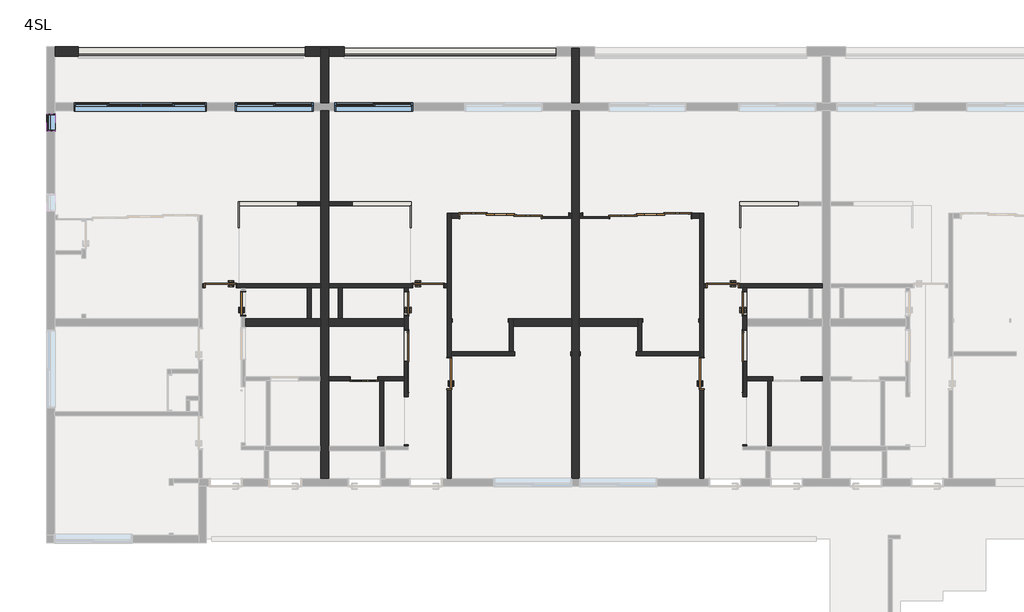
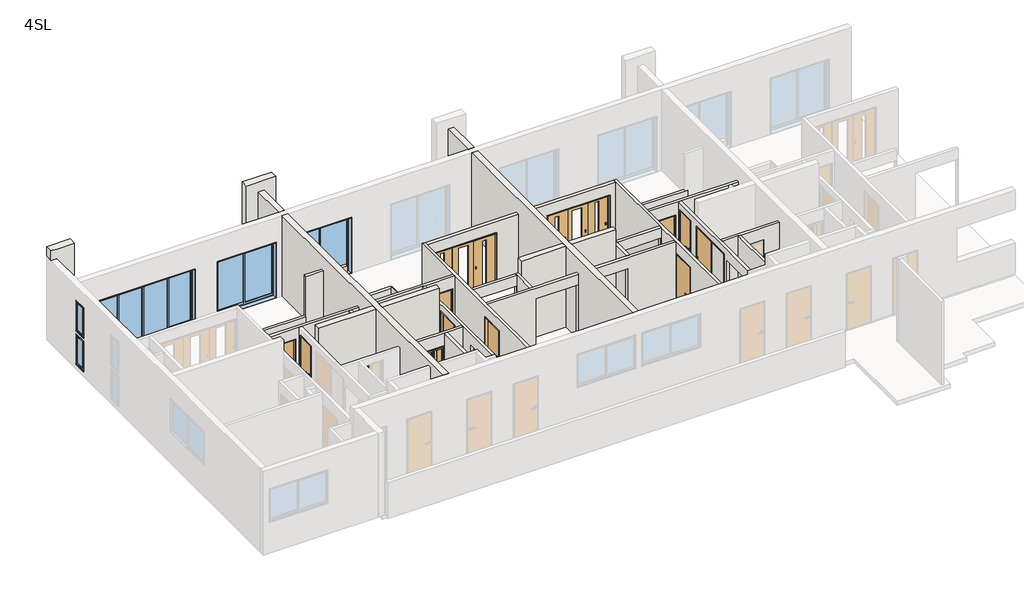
# One storey, part 2 of 3: 37 walls, 13 doors, 5 windows, 2 plates.
"""IFC4 building model written with IfcOpenShell, lengths in millimetres."""

from ifc_helpers import new_model, si_unit, frame, origin, place, context, project, spatial, polyline, outline, extrude, faceted_brep, transform, mapped, element, save
from components import door_a3db7c72, door_c7dcdbed, door_8f2de950, door_3b96e66a, door_aabc7979, door_3f60c47c, door_12b42705, door_31a51f76, door_d265da5f, system_panel_37aab131, system_panel_5692cc67, window_4c3e1407, window_a2a98c4b, window_ec430ee0, window_7edd47ae, w0450_h1100_93ba837a

model = new_model("IFC4")

# Units and contexts
model_context = context("Model", 3, world=origin())
ifc_project = project(units=[si_unit("LENGTHUNIT", "METRE", prefix="MILLI")], contexts=[model_context])

# Site, building, storey
site = spatial("IfcSite", under=ifc_project)
building = spatial("IfcBuilding", under=site)
storey = spatial("IfcBuildingStorey", under=building, Name="4SL", Elevation=10000.0)

# Doors
placement = place(None, origin())
door_shape = door_a3db7c72(model_context)
element("IfcDoor", 1, ObjectType="木製_片開き_フラッシュ : WD-2 w600h2000", at=placement, inside=storey, context=model_context, shape_type="MappedRepresentation", body=[
    mapped(door_shape, transform((-5645.6194095, 3696.254513, 10210.0), x_axis=(0.0, 1.0, 0.0), y_axis=(-1.0, 0.0, 0.0), z_axis=(0.0, 0.0, 1.0))),
])
element("IfcDoor", 2, ObjectType="木製_片開き_フラッシュ : WD-2 w600h2000", at=placement, inside=storey, context=model_context, shape_type="MappedRepresentation", body=[
    mapped(door_shape, transform((7254.3805905, 3696.254513, 10210.0), x_axis=(0.0, 1.0, 0.0), y_axis=(-1.0, 0.0, 0.0), z_axis=(0.0, 0.0, 1.0))),
])
door_2_shape = door_c7dcdbed(model_context)
element("IfcDoor", 3, ObjectType="木製_片開き_フラッシュ : WD-2 w600h2000", at=placement, inside=storey, context=model_context, shape_type="MappedRepresentation", body=[
    mapped(door_2_shape, transform((-1445.6194095, 3696.254513, 10210.0), x_axis=(0.0, 1.0, 0.0), y_axis=(-1.0, 0.0, 0.0), z_axis=(0.0, 0.0, 1.0))),
])
door_3_shape = door_8f2de950(model_context)
element("IfcDoor", 4, ObjectType="木製_片開き_フラッシュ : WD-1\u3000w800h2000", at=placement, inside=storey, context=model_context, shape_type="MappedRepresentation", body=[
    mapped(door_3_shape, transform((-6225.6194095, 4160.2598658, 10060.0), x_axis=(-1.0, 0.0, 0.0), y_axis=(0.0, -1.0, 0.0), z_axis=(0.0, 0.0, 1.0))),
])
element("IfcDoor", 5, ObjectType="木製_片開き_フラッシュ : WD-1\u3000w800h2000", at=placement, inside=storey, context=model_context, shape_type="MappedRepresentation", body=[
    mapped(door_3_shape, transform((-345.6194095, 1900.2598658, 10060.0), x_axis=(0.0, 1.0, 0.0), y_axis=(-1.0, 0.0, 0.0), z_axis=(0.0, 0.0, 1.0))),
])
element("IfcDoor", 6, ObjectType="木製_片開き_フラッシュ : WD-1\u3000w800h2000", at=placement, inside=storey, context=model_context, shape_type="MappedRepresentation", body=[
    mapped(door_3_shape, transform((6694.3805905, 4160.2598658, 10000.0), x_axis=(-1.0, 0.0, 0.0), y_axis=(0.0, -1.0, 0.0), z_axis=(0.0, 0.0, 1.0))),
])
door_4_shape = door_3b96e66a(model_context)
element("IfcDoor", 7, ObjectType="木製_片開き_フラッシュ : WD-1\u3000w800h2000", at=placement, inside=storey, context=model_context, shape_type="MappedRepresentation", body=[
    mapped(door_4_shape, transform((-885.6194095, 4160.2598658, 10000.0), x_axis=(1.0, 0.0, 0.0), y_axis=(0.0, 1.0, 0.0), z_axis=(0.0, 0.0, 1.0))),
])
element("IfcDoor", 8, ObjectType="木製_片開き_フラッシュ : WD-1\u3000w800h2000", at=placement, inside=storey, context=model_context, shape_type="MappedRepresentation", body=[
    mapped(door_4_shape, transform((6154.3805905, 1900.2598658, 10060.0), x_axis=(0.0, 1.0, 0.0), y_axis=(-1.0, 0.0, 0.0), z_axis=(0.0, 0.0, 1.0))),
])
door_5_shape = door_aabc7979(model_context)
element("IfcDoor", 9, ObjectType="木製_折戸2枚_フラッシュ(UB) : UB-1 w600h2000", at=placement, inside=storey, context=model_context, shape_type="MappedRepresentation", body=[
    mapped(door_5_shape, transform((-2535.6194095, 1760.2598658, 10000.0), x_axis=(-1.0, 0.0, 0.0), y_axis=(0.0, -1.0, 0.0), z_axis=(0.0, 0.0, 1.0))),
])
door_6_shape = door_3f60c47c(model_context)
element("IfcDoor", 10, ObjectType="木製_片引き_フラッシュ : WD-4 w800h2000", at=placement, inside=storey, context=model_context, shape_type="MappedRepresentation", body=[
    mapped(door_6_shape, transform((-1445.6194095, 2610.719009, 10210.0), x_axis=(0.0, -1.0, 0.0), y_axis=(1.0, 0.0, 0.0), z_axis=(0.0, 0.0, 1.0))),
])
door_7_shape = door_12b42705(model_context)
element("IfcDoor", 11, ObjectType="木製_片引き_フラッシュ : WD-4 w800h2000", at=placement, inside=storey, context=model_context, shape_type="MappedRepresentation", body=[
    mapped(door_7_shape, transform((7254.3805905, 2610.719009, 10210.0), x_axis=(0.0, -1.0, 0.0), y_axis=(1.0, 0.0, 0.0), z_axis=(0.0, 0.0, 1.0))),
])
door_8_shape = door_31a51f76(model_context)
element("IfcDoor", 12, ObjectType="木製_片引き3枚_フラッシュ2 : WD-9 w2100h2000", at=placement, inside=storey, context=model_context, shape_type="MappedRepresentation", body=[
    mapped(door_8_shape, transform((979.9160944, 5960.2598658, 10060.0), x_axis=(1.0, 0.0, 0.0), y_axis=(0.0, 1.0, 0.0), z_axis=(0.0, 0.0, 1.0))),
])
door_9_shape = door_d265da5f(model_context)
element("IfcDoor", 13, ObjectType="木製_片引き3枚_フラッシュ2 : WD-9 w2100h2000", at=placement, inside=storey, context=model_context, shape_type="MappedRepresentation", body=[
    mapped(door_9_shape, transform((4828.8450865, 5960.2598658, 10060.0), x_axis=(-1.0, 0.0, 0.0), y_axis=(0.0, -1.0, 0.0), z_axis=(0.0, 0.0, 1.0))),
])

# Plates
system_panel_shape = system_panel_37aab131(model_context)
element("IfcPlate", 14, ObjectType="システム パネル : System Panel", at=placement, inside=storey, context=model_context, shape_type="MappedRepresentation", body=[
    mapped(system_panel_shape, transform((-320.6194095, 10097.7598658, 10000.0), x_axis=(-1.0, 0.0, 0.0), y_axis=(0.0, -1.0, 0.0), z_axis=(0.0, 0.0, 1.0))),
])
system_panel_2_shape = system_panel_5692cc67(model_context)
element("IfcPlate", 15, ObjectType="システム パネル : System Panel", at=placement, inside=storey, context=model_context, shape_type="MappedRepresentation", body=[
    mapped(system_panel_2_shape, transform((-6970.6194095, 10097.7598658, 10000.0), x_axis=(1.0, 0.0, 0.0), y_axis=(0.0, 1.0, 0.0), z_axis=(0.0, 0.0, 1.0))),
])

# Walls
element("IfcWall", 16, ObjectType="(F)30", at=placement, inside=storey, context=model_context, shape_type="Brep", body=[
    faceted_brep([(-5775.1194095, 6315.254513, 10113.4303939), (-5775.1194095, 5645.254513, 10113.4303939), (-5775.1194095, 5645.254513, 11060.0), (-5775.1194095, 6315.254513, 11060.0), (-5745.1194095, 6315.254513, 10113.4303939), (-5745.1194095, 6315.254513, 11060.0), (-5745.1194095, 6215.254513, 11060.0), (-5745.1194095, 5645.254513, 11060.0), (-5745.1194095, 5645.254513, 10113.4303939)], [[[0, 1, 2, 3]], [[4, 5, 6, 7, 8]], [[1, 0, 4, 8]], [[2, 1, 8, 7]], [[3, 2, 7, 6, 5]], [[0, 3, 5, 4]]]),
])
element("IfcWall", 17, ObjectType="(F)30", at=placement, inside=storey, context=model_context, shape_type="Brep", body=[
    faceted_brep([(-1346.1194095, 6215.254513, 10060.0), (-1346.1194095, 5645.254513, 10060.0), (-1346.1194095, 5645.254513, 11120.0), (-1346.1194095, 6215.254513, 11120.0), (-1316.1194095, 6215.254513, 10060.0), (-1316.1194095, 6215.254513, 11060.0), (-1316.1194095, 6215.254513, 11120.0), (-1316.1194095, 5645.254513, 11120.0), (-1316.1194095, 5645.254513, 10060.0)], [[[0, 1, 2, 3]], [[4, 5, 6, 7, 8]], [[1, 0, 4, 8]], [[2, 1, 8, 7]], [[3, 2, 7, 6]], [[0, 3, 6, 5, 4]]]),
])
element("IfcWall", 18, ObjectType="(F)30", at=placement, inside=storey, context=model_context, shape_type="Brep", body=[
    faceted_brep([(7124.8805905, 6215.254513, 10060.0), (7124.8805905, 5645.254513, 10060.0), (7124.8805905, 5645.254513, 11120.0), (7124.8805905, 6215.254513, 11120.0), (7124.8805905, 6215.254513, 11060.0), (7154.8805905, 6215.254513, 10060.0), (7154.8805905, 6215.254513, 11120.0), (7154.8805905, 5645.254513, 11120.0), (7154.8805905, 5645.254513, 10060.0)], [[[0, 1, 2, 3, 4]], [[5, 6, 7, 8]], [[1, 0, 5, 8]], [[2, 1, 8, 7]], [[3, 2, 7, 6]], [[0, 4, 3, 6, 5]]]),
])
element("IfcWall", 19, ObjectType="(L)100", at=placement, inside=storey, context=model_context, shape_type="Brep", body=[
    faceted_brep([(-4245.6194095, 6315.254513, 10000.0), (-5745.1194095, 6315.254513, 10000.0), (-5745.1194095, 6315.254513, 10113.4303939), (-5745.1194095, 6315.254513, 11060.0), (-4245.6194095, 6315.254513, 11060.0), (-4245.6194095, 6315.254513, 10100.0), (-4245.6194095, 6215.254513, 10000.0), (-4245.6194095, 6215.254513, 10100.0), (-4245.6194095, 6215.254513, 11060.0), (-5745.1194095, 6215.254513, 11060.0), (-5745.1194095, 6215.254513, 10000.0)], [[[0, 1, 2, 3, 4, 5]], [[6, 7, 8, 9, 10]], [[1, 0, 6, 10]], [[4, 3, 9, 8]], [[0, 5, 4, 8, 7, 6]], [[3, 2, 1, 10, 9]]]),
])
element("IfcWall", 20, ObjectType="(L)100", at=placement, inside=storey, context=model_context, shape_type="SweptSolid", body=[
    extrude(outline(polyline([(-3995.6194095, 3310.2598658), (-3995.6194095, 4110.2598658), (-3895.6194095, 4110.2598658), (-3895.6194095, 3310.2598658), (-3995.6194095, 3310.2598658)])), frame((0.0, 0.0, 10000.0), z_axis=(0.0, 0.0, 1.0), x_axis=(1.0, 0.0, 0.0)), (0.0, 0.0, 1.0), 2460.0),
])
element("IfcWall", 21, ObjectType="(L)100", at=placement, inside=storey, context=model_context, shape_type="Brep", body=[
    faceted_brep([(-3645.6194095, 4210.2598658, 10060.0), (-5805.6194095, 4210.2598658, 10060.0), (-5805.6194095, 4210.2598658, 12080.0), (-6645.6194095, 4210.2598658, 12080.0), (-6645.6194095, 4210.2598658, 10060.0), (-6695.6194095, 4210.2598658, 10060.0), (-6695.6194095, 4210.2598658, 12460.0), (-3645.6194095, 4210.2598658, 12460.0), (-5805.6194095, 4110.2598658, 12080.0), (-5805.6194095, 4110.2598658, 10060.0), (-5695.6194095, 4110.2598658, 10060.0), (-5595.6194095, 4110.2598658, 10060.0), (-3645.6194095, 4110.2598658, 10060.0), (-3645.6194095, 4110.2598658, 12460.0), (-3895.6194095, 4110.2598658, 12460.0), (-3995.6194095, 4110.2598658, 12460.0), (-5595.6194095, 4110.2598658, 12460.0), (-5695.6194095, 4110.2598658, 12460.0), (-6695.6194095, 4110.2598658, 12460.0), (-6695.6194095, 4110.2598658, 10060.0), (-6645.6194095, 4110.2598658, 10060.0), (-6645.6194095, 4110.2598658, 12080.0)], [[[0, 1, 2, 3, 4, 5, 6, 7]], [[8, 9, 10, 11, 12, 13, 14, 15, 16, 17, 18, 19, 20, 21]], [[12, 11, 10, 9, 1, 0]], [[20, 19, 5, 4]], [[7, 6, 18, 17, 16, 15, 14, 13]], [[0, 7, 13, 12]], [[6, 5, 19, 18]], [[4, 3, 21, 20]], [[2, 1, 9, 8]], [[3, 2, 8, 21]]]),
])
element("IfcWall", 22, ObjectType="(L)100", at=placement, inside=storey, context=model_context, shape_type="Brep", body=[
    faceted_brep([(-395.6194095, 1480.2598658, 12080.0), (-395.6194095, 1480.2598658, 10060.0), (-395.6194095, -809.7401342, 10060.0), (-395.6194095, -809.7401342, 12460.0), (-395.6194095, 4110.2598658, 12460.0), (-395.6194095, 4210.2598658, 12460.0), (-395.6194095, 6022.7598658, 12460.0), (-395.6194095, 6022.7598658, 10060.0), (-395.6194095, 2320.2598658, 10060.0), (-395.6194095, 2320.2598658, 12080.0), (-295.6194095, -809.7401342, 10060.0), (-295.6194095, 1480.2598658, 10060.0), (-295.6194095, 1480.2598658, 12080.0), (-295.6194095, 2320.2598658, 12080.0), (-295.6194095, 2320.2598658, 10060.0), (-295.6194095, 2360.2598658, 10060.0), (-295.6194095, 2460.2598658, 10060.0), (-295.6194095, 5897.7598658, 10060.0), (-295.6194095, 6022.7598658, 10060.0), (-295.6194095, 6022.7598658, 12460.0), (-295.6194095, 5897.7598658, 12460.0), (-295.6194095, 3310.2598658, 12460.0), (-295.6194095, 3210.2598658, 12460.0), (-295.6194095, 2460.2598658, 12460.0), (-295.6194095, 2360.2598658, 12460.0), (-295.6194095, -809.7401342, 12460.0)], [[[0, 1, 2, 3, 4, 5, 6, 7, 8, 9]], [[10, 11, 12, 13, 14, 15, 16, 17, 18, 19, 20, 21, 22, 23, 24, 25]], [[2, 1, 11, 10]], [[8, 7, 18, 17, 16, 15, 14]], [[6, 5, 4, 3, 25, 24, 23, 22, 21, 20, 19]], [[7, 6, 19, 18]], [[3, 2, 10, 25]], [[14, 13, 9, 8]], [[12, 11, 1, 0]], [[13, 12, 0, 9]]]),
])
element("IfcWall", 23, ObjectType="(L)100", at=placement, inside=storey, context=model_context, shape_type="Brep", body=[
    faceted_brep([(2804.3805905, 2460.2598658, 10060.0), (2784.3805905, 2460.2598658, 10060.0), (2784.3805905, 2460.2598658, 12080.0), (1344.3805905, 2460.2598658, 12080.0), (1344.3805905, 2460.2598658, 10060.0), (-295.6194095, 2460.2598658, 10060.0), (-295.6194095, 2460.2598658, 12460.0), (1204.3805905, 2460.2598658, 12460.0), (1304.3805905, 2460.2598658, 12460.0), (2804.3805905, 2460.2598658, 12460.0), (2784.3805905, 2360.2598658, 12080.0), (2784.3805905, 2360.2598658, 10060.0), (2804.3805905, 2360.2598658, 10060.0), (2804.3805905, 2360.2598658, 12460.0), (-295.6194095, 2360.2598658, 12460.0), (-295.6194095, 2360.2598658, 10060.0), (1344.3805905, 2360.2598658, 10060.0), (1344.3805905, 2360.2598658, 12080.0)], [[[0, 1, 2, 3, 4, 5, 6, 7, 8, 9]], [[10, 11, 12, 13, 14, 15, 16, 17]], [[12, 11, 1, 0]], [[16, 15, 5, 4]], [[9, 8, 7, 6, 14, 13]], [[0, 9, 13, 12]], [[6, 5, 15, 14]], [[4, 3, 17, 16]], [[2, 1, 11, 10]], [[3, 2, 10, 17]]]),
])
element("IfcWall", 24, ObjectType="(L)100", at=placement, inside=storey, context=model_context, shape_type="Brep", body=[
    faceted_brep([(1204.3805905, 3310.2598658, 10000.0), (1204.3805905, 3210.2598658, 10000.0), (1204.3805905, 2460.2598658, 10000.0), (1204.3805905, 2460.2598658, 12460.0), (1204.3805905, 3210.2598658, 12460.0), (1204.3805905, 3310.2598658, 12460.0), (1304.3805905, 3310.2598658, 10000.0), (1304.3805905, 3310.2598658, 12460.0), (1304.3805905, 2460.2598658, 12460.0), (1304.3805905, 2460.2598658, 10000.0), (1304.3805905, 3110.2598658, 10000.0)], [[[0, 1, 2, 3, 4, 5]], [[6, 7, 8, 9, 10]], [[2, 1, 0, 6, 10, 9]], [[5, 4, 3, 8, 7]], [[0, 5, 7, 6]], [[3, 2, 9, 8]]]),
])
element("IfcWall", 25, ObjectType="(L)100", at=placement, inside=storey, context=model_context, shape_type="Brep", body=[
    faceted_brep([(-1395.6194095, 4110.2598658, 12460.0), (-1395.6194095, 30.2598658, 12460.0), (-1395.6194095, 30.2598658, 10060.0), (-1395.6194095, 60.2598658, 10060.0), (-1395.6194095, 60.2598658, 12080.0), (-1395.6194095, 1300.2598658, 12080.0), (-1395.6194095, 1300.2598658, 10060.0), (-1395.6194095, 4110.2598658, 10060.0), (-1395.6194095, 1396.254513, 12230.0), (-1395.6194095, 3036.254513, 12230.0), (-1395.6194095, 3036.254513, 10210.0), (-1395.6194095, 1396.254513, 10210.0), (-1395.6194095, 4016.254513, 12230.0), (-1395.6194095, 4016.254513, 10210.0), (-1395.6194095, 3376.254513, 10210.0), (-1395.6194095, 3376.254513, 12230.0), (-1495.6194095, 30.2598658, 12460.0), (-1495.6194095, 1710.2598658, 12460.0), (-1495.6194095, 1810.2598658, 12460.0), (-1495.6194095, 4110.2598658, 12460.0), (-1495.6194095, 4110.2598658, 10060.0), (-1495.6194095, 1300.2598658, 10060.0), (-1495.6194095, 1300.2598658, 12080.0), (-1495.6194095, 60.2598658, 12080.0), (-1495.6194095, 60.2598658, 10060.0), (-1495.6194095, 30.2598658, 10060.0), (-1495.6194095, 3036.254513, 12230.0), (-1495.6194095, 2196.254513, 12230.0), (-1495.6194095, 2196.254513, 10210.0), (-1495.6194095, 3036.254513, 10210.0), (-1495.6194095, 4016.254513, 10210.0), (-1495.6194095, 4016.254513, 12230.0), (-1495.6194095, 3376.254513, 12230.0), (-1495.6194095, 3376.254513, 10210.0), (-1425.6194095, 1396.254513, 12230.0), (-1425.6194095, 2196.254513, 12230.0), (-1425.6194095, 2196.254513, 10210.0), (-1425.6194095, 1396.254513, 10210.0)], [[[0, 1, 2, 3, 4, 5, 6, 7], [8, 9, 10, 11], [12, 13, 14, 15]], [[16, 17, 18, 19, 20, 21, 22, 23, 24, 25], [26, 27, 28, 29], [30, 31, 32, 33]], [[20, 7, 6, 21]], [[2, 25, 24, 3]], [[1, 0, 19, 18, 17, 16]], [[0, 7, 20, 19]], [[2, 1, 16, 25]], [[5, 22, 21, 6]], [[23, 4, 3, 24]], [[22, 5, 4, 23]], [[34, 35, 27, 26, 9, 8]], [[9, 26, 29, 10]], [[36, 37, 11, 10, 29, 28]], [[35, 36, 28, 27]], [[35, 34, 37, 36]], [[37, 34, 8, 11]], [[12, 31, 30, 13]], [[13, 30, 33, 14]], [[14, 33, 32, 15]], [[31, 12, 15, 32]]]),
])
element("IfcWall", 26, ObjectType="(L)100", at=placement, inside=storey, context=model_context, shape_type="SweptSolid", body=[
    extrude(outline(polyline([(-3445.6194095, 6315.254513), (-2845.6194095, 6315.254513), (-2845.6194095, 6215.254513), (-3445.6194095, 6215.254513), (-3445.6194095, 6315.254513)])), frame((0.0, 0.0, 10000.0), z_axis=(0.0, 0.0, 1.0), x_axis=(1.0, 0.0, 0.0)), (0.0, 0.0, 1.0), 2400.0),
])
element("IfcWall", 27, ObjectType="(L)100", at=placement, inside=storey, context=model_context, shape_type="Brep", body=[
    faceted_brep([(-2920.6194095, 6215.254513, 10060.0), (-1346.1194095, 6215.254513, 10060.0), (-1316.1194095, 6215.254513, 10060.0), (-1316.1194095, 6215.254513, 11060.0), (-2920.6194095, 6215.254513, 11060.0), (-2920.6194095, 6315.254513, 10060.0), (-2920.6194095, 6315.254513, 11060.0), (-1316.1194095, 6315.254513, 11060.0), (-1316.1194095, 6315.254513, 10060.0)], [[[0, 1, 2, 3, 4]], [[5, 6, 7, 8]], [[2, 1, 0, 5, 8]], [[4, 3, 7, 6]], [[0, 4, 6, 5]], [[3, 2, 8, 7]]]),
])
element("IfcWall", 28, ObjectType="(L)100", at=placement, inside=storey, context=model_context, shape_type="SweptSolid", body=[
    extrude(outline(polyline([(-3195.6194095, 3310.2598658), (-3195.6194095, 4110.2598658), (-3095.6194095, 4110.2598658), (-3095.6194095, 3310.2598658), (-3195.6194095, 3310.2598658)])), frame((0.0, 0.0, 10000.0), z_axis=(0.0, 0.0, 1.0), x_axis=(1.0, 0.0, 0.0)), (0.0, 0.0, 1.0), 2460.0),
])
element("IfcWall", 29, ObjectType="(L)100", at=placement, inside=storey, context=model_context, shape_type="Brep", body=[
    faceted_brep([(-2165.6194095, 1710.2598658, 12020.0), (-2165.6194095, 1710.2598658, 10000.0), (-2135.6194095, 1710.2598658, 10000.0), (-2035.6194095, 1710.2598658, 10000.0), (-1495.6194095, 1710.2598658, 10000.0), (-1495.6194095, 1710.2598658, 12460.0), (-2035.6194095, 1710.2598658, 12460.0), (-2135.6194095, 1710.2598658, 12460.0), (-3445.6194095, 1710.2598658, 12460.0), (-3445.6194095, 1710.2598658, 10000.0), (-2905.6194095, 1710.2598658, 10000.0), (-2905.6194095, 1710.2598658, 12020.0), (-1495.6194095, 1810.2598658, 10000.0), (-2165.6194095, 1810.2598658, 10000.0), (-2165.6194095, 1810.2598658, 12020.0), (-2905.6194095, 1810.2598658, 12020.0), (-2905.6194095, 1810.2598658, 10000.0), (-3445.6194095, 1810.2598658, 10000.0), (-3445.6194095, 1810.2598658, 12460.0), (-1495.6194095, 1810.2598658, 12460.0)], [[[0, 1, 2, 3, 4, 5, 6, 7, 8, 9, 10, 11]], [[12, 13, 14, 15, 16, 17, 18, 19]], [[4, 3, 2, 1, 13, 12]], [[10, 9, 17, 16]], [[8, 7, 6, 5, 19, 18]], [[9, 8, 18, 17]], [[5, 4, 12, 19]], [[16, 15, 11, 10]], [[14, 13, 1, 0]], [[15, 14, 0, 11]]]),
])
element("IfcWall", 30, ObjectType="(L)100", at=placement, inside=storey, context=model_context, shape_type="Brep", body=[
    faceted_brep([(-3445.6194095, 4110.2598658, 10000.0), (-3195.6194095, 4110.2598658, 10000.0), (-3095.6194095, 4110.2598658, 10000.0), (-1305.6194095, 4110.2598658, 10000.0), (-1305.6194095, 4110.2598658, 12020.0), (-465.6194095, 4110.2598658, 12020.0), (-465.6194095, 4110.2598658, 10000.0), (-395.6194095, 4110.2598658, 10000.0), (-395.6194095, 4110.2598658, 12460.0), (-1395.6194095, 4110.2598658, 12460.0), (-1495.6194095, 4110.2598658, 12460.0), (-3095.6194095, 4110.2598658, 12460.0), (-3195.6194095, 4110.2598658, 12460.0), (-3445.6194095, 4110.2598658, 12460.0), (-1305.6194095, 4210.2598658, 12020.0), (-1305.6194095, 4210.2598658, 10000.0), (-3445.6194095, 4210.2598658, 10000.0), (-3445.6194095, 4210.2598658, 12460.0), (-395.6194095, 4210.2598658, 12460.0), (-395.6194095, 4210.2598658, 10000.0), (-465.6194095, 4210.2598658, 10000.0), (-465.6194095, 4210.2598658, 12020.0)], [[[0, 1, 2, 3, 4, 5, 6, 7, 8, 9, 10, 11, 12, 13]], [[14, 15, 16, 17, 18, 19, 20, 21]], [[16, 15, 3, 2, 1, 0]], [[20, 19, 7, 6]], [[13, 12, 11, 10, 9, 8, 18, 17]], [[0, 13, 17, 16]], [[8, 7, 19, 18]], [[6, 5, 21, 20]], [[4, 3, 15, 14]], [[5, 4, 14, 21]]]),
])
element("IfcWall", 31, ObjectType="(L)100", at=placement, inside=storey, context=model_context, shape_type="Brep", body=[
    faceted_brep([(-4245.6194095, 6215.254513, 10100.0), (-3645.6194095, 6215.254513, 10100.0), (-3645.6194095, 6215.254513, 12500.0), (-4245.6194095, 6215.254513, 12500.0), (-4245.6194095, 6215.254513, 11060.0), (-4245.6194095, 6315.254513, 10100.0), (-4245.6194095, 6315.254513, 11060.0), (-4245.6194095, 6315.254513, 12500.0), (-3645.6194095, 6315.254513, 12500.0), (-3645.6194095, 6315.254513, 10100.0)], [[[0, 1, 2, 3, 4]], [[5, 6, 7, 8, 9]], [[1, 0, 5, 9]], [[3, 2, 8, 7]], [[0, 4, 3, 7, 6, 5]], [[2, 1, 9, 8]]]),
])
element("IfcWall", 32, ObjectType="(L)100", at=placement, inside=storey, context=model_context, shape_type="SweptSolid", body=[
    extrude(outline(polyline([(10000.0, -295.6194095), (10000.0, 1204.3805905), (12460.0, 1204.3805905), (12460.0, -295.6194095), (10000.0, -295.6194095)]), holes=[polyline([(10060.0, 1174.3805905), (10060.0, -265.6194095), (12080.0, -265.6194095), (12080.0, 1174.3805905), (10060.0, 1174.3805905)])]), frame((0.0, 3210.2598658, 0.0), z_axis=(0.0, 1.0, 0.0), x_axis=(0.0, 0.0, 1.0)), (0.0, 0.0, 1.0), 100.0),
])
element("IfcWall", 33, ObjectType="(L)100", at=placement, inside=storey, context=model_context, shape_type="SweptSolid", body=[
    extrude(outline(polyline([(-2135.6194095, 30.2598658), (-2135.6194095, 1710.2598658), (-2035.6194095, 1710.2598658), (-2035.6194095, 30.2598658), (-2135.6194095, 30.2598658)])), frame((0.0, 0.0, 10000.0), z_axis=(0.0, 0.0, 1.0), x_axis=(1.0, 0.0, 0.0)), (0.0, 0.0, 1.0), 2460.0),
])
element("IfcWall", 34, ObjectType="(L)100", at=placement, inside=storey, context=model_context, shape_type="Brep", body=[
    faceted_brep([(6104.3805905, 1480.2598658, 12080.0), (6104.3805905, 1480.2598658, 10060.0), (6104.3805905, -809.7401342, 10060.0), (6104.3805905, -809.7401342, 12460.0), (6104.3805905, 2360.2598658, 12460.0), (6104.3805905, 2460.2598658, 12460.0), (6104.3805905, 3210.2598658, 12460.0), (6104.3805905, 3310.2598658, 12460.0), (6104.3805905, 5897.7598658, 12460.0), (6104.3805905, 6022.7598658, 12460.0), (6104.3805905, 6022.7598658, 10060.0), (6104.3805905, 5897.7598658, 10060.0), (6104.3805905, 2460.2598658, 10060.0), (6104.3805905, 2360.2598658, 10060.0), (6104.3805905, 2320.2598658, 10060.0), (6104.3805905, 2320.2598658, 12080.0), (6204.3805905, -809.7401342, 10060.0), (6204.3805905, 1480.2598658, 10060.0), (6204.3805905, 1480.2598658, 12080.0), (6204.3805905, 2320.2598658, 12080.0), (6204.3805905, 2320.2598658, 10060.0), (6204.3805905, 6022.7598658, 10060.0), (6204.3805905, 6022.7598658, 12460.0), (6204.3805905, 4210.2598658, 12460.0), (6204.3805905, 4110.2598658, 12460.0), (6204.3805905, -809.7401342, 12460.0)], [[[0, 1, 2, 3, 4, 5, 6, 7, 8, 9, 10, 11, 12, 13, 14, 15]], [[16, 17, 18, 19, 20, 21, 22, 23, 24, 25]], [[2, 1, 17, 16]], [[14, 13, 12, 11, 10, 21, 20]], [[9, 8, 7, 6, 5, 4, 3, 25, 24, 23, 22]], [[10, 9, 22, 21]], [[3, 2, 16, 25]], [[20, 19, 15, 14]], [[18, 17, 1, 0]], [[19, 18, 0, 15]]]),
])
element("IfcWall", 35, ObjectType="(L)100", at=placement, inside=storey, context=model_context, shape_type="Brep", body=[
    faceted_brep([(3004.3805905, 2360.2598658, 10060.0), (3024.3805905, 2360.2598658, 10060.0), (3024.3805905, 2360.2598658, 12080.0), (4464.3805905, 2360.2598658, 12080.0), (4464.3805905, 2360.2598658, 10060.0), (6104.3805905, 2360.2598658, 10060.0), (6104.3805905, 2360.2598658, 12460.0), (3004.3805905, 2360.2598658, 12460.0), (3024.3805905, 2460.2598658, 12080.0), (3024.3805905, 2460.2598658, 10060.0), (3004.3805905, 2460.2598658, 10060.0), (3004.3805905, 2460.2598658, 12460.0), (4504.3805905, 2460.2598658, 12460.0), (4604.3805905, 2460.2598658, 12460.0), (6104.3805905, 2460.2598658, 12460.0), (6104.3805905, 2460.2598658, 10060.0), (4464.3805905, 2460.2598658, 10060.0), (4464.3805905, 2460.2598658, 12080.0)], [[[0, 1, 2, 3, 4, 5, 6, 7]], [[8, 9, 10, 11, 12, 13, 14, 15, 16, 17]], [[10, 9, 1, 0]], [[16, 15, 5, 4]], [[7, 6, 14, 13, 12, 11]], [[0, 7, 11, 10]], [[6, 5, 15, 14]], [[4, 3, 17, 16]], [[2, 1, 9, 8]], [[3, 2, 8, 17]]]),
])
element("IfcWall", 36, ObjectType="(L)100", at=placement, inside=storey, context=model_context, shape_type="Brep", body=[
    faceted_brep([(4504.3805905, 3310.2598658, 10000.0), (4504.3805905, 3110.2598658, 10000.0), (4504.3805905, 2460.2598658, 10000.0), (4504.3805905, 2460.2598658, 12460.0), (4504.3805905, 3310.2598658, 12460.0), (4604.3805905, 3310.2598658, 10000.0), (4604.3805905, 3310.2598658, 12460.0), (4604.3805905, 3210.2598658, 12460.0), (4604.3805905, 2460.2598658, 12460.0), (4604.3805905, 2460.2598658, 10000.0), (4604.3805905, 3210.2598658, 10000.0)], [[[0, 1, 2, 3, 4]], [[5, 6, 7, 8, 9, 10]], [[2, 1, 0, 5, 10, 9]], [[4, 3, 8, 7, 6]], [[0, 4, 6, 5]], [[3, 2, 9, 8]]]),
])
element("IfcWall", 37, ObjectType="(L)100", at=placement, inside=storey, context=model_context, shape_type="Brep", body=[
    faceted_brep([(7304.3805905, 4110.2598658, 12460.0), (7304.3805905, 1810.2598658, 12460.0), (7304.3805905, 1710.2598658, 12460.0), (7304.3805905, 30.2598658, 12460.0), (7304.3805905, 30.2598658, 10060.0), (7304.3805905, 60.2598658, 10060.0), (7304.3805905, 60.2598658, 12080.0), (7304.3805905, 1300.2598658, 12080.0), (7304.3805905, 1300.2598658, 10060.0), (7304.3805905, 4110.2598658, 10060.0), (7304.3805905, 2196.254513, 12230.0), (7304.3805905, 3036.254513, 12230.0), (7304.3805905, 3036.254513, 10210.0), (7304.3805905, 2196.254513, 10210.0), (7304.3805905, 4016.254513, 12230.0), (7304.3805905, 4016.254513, 10210.0), (7304.3805905, 3376.254513, 10210.0), (7304.3805905, 3376.254513, 12230.0), (7204.3805905, 30.2598658, 12460.0), (7204.3805905, 4110.2598658, 12460.0), (7204.3805905, 4110.2598658, 10060.0), (7204.3805905, 1300.2598658, 10060.0), (7204.3805905, 1300.2598658, 12080.0), (7204.3805905, 60.2598658, 12080.0), (7204.3805905, 60.2598658, 10060.0), (7204.3805905, 30.2598658, 10060.0), (7204.3805905, 3036.254513, 12230.0), (7204.3805905, 1396.254513, 12230.0), (7204.3805905, 1396.254513, 10210.0), (7204.3805905, 3036.254513, 10210.0), (7204.3805905, 4016.254513, 10210.0), (7204.3805905, 4016.254513, 12230.0), (7204.3805905, 3376.254513, 12230.0), (7204.3805905, 3376.254513, 10210.0), (7234.3805905, 2196.254513, 12230.0), (7234.3805905, 1396.254513, 12230.0), (7234.3805905, 1396.254513, 10210.0), (7234.3805905, 2196.254513, 10210.0)], [[[0, 1, 2, 3, 4, 5, 6, 7, 8, 9], [10, 11, 12, 13], [14, 15, 16, 17]], [[18, 19, 20, 21, 22, 23, 24, 25], [26, 27, 28, 29], [30, 31, 32, 33]], [[20, 9, 8, 21]], [[4, 25, 24, 5]], [[3, 2, 1, 0, 19, 18]], [[0, 9, 20, 19]], [[4, 3, 18, 25]], [[7, 22, 21, 8]], [[23, 6, 5, 24]], [[22, 7, 6, 23]], [[34, 35, 27, 26, 11, 10]], [[11, 26, 29, 12]], [[36, 37, 13, 12, 29, 28]], [[37, 34, 10, 13]], [[35, 34, 37, 36]], [[35, 36, 28, 27]], [[14, 31, 30, 15]], [[15, 30, 33, 16]], [[16, 33, 32, 17]], [[31, 14, 17, 32]]]),
])
element("IfcWall", 38, ObjectType="(L)100", at=placement, inside=storey, context=model_context, shape_type="Brep", body=[
    faceted_brep([(8729.3805905, 6315.254513, 10060.0), (7124.8805905, 6315.254513, 10060.0), (7124.8805905, 6315.254513, 11060.0), (8729.3805905, 6315.254513, 11060.0), (8729.3805905, 6215.254513, 10060.0), (8729.3805905, 6215.254513, 11060.0), (7124.8805905, 6215.254513, 11060.0), (7124.8805905, 6215.254513, 10060.0), (7154.8805905, 6215.254513, 10060.0)], [[[0, 1, 2, 3]], [[4, 5, 6, 7, 8]], [[1, 0, 4, 8, 7]], [[3, 2, 6, 5]], [[0, 3, 5, 4]], [[2, 1, 7, 6]]]),
])
element("IfcWall", 39, ObjectType="(L)100", at=placement, inside=storey, context=model_context, shape_type="Brep", body=[
    faceted_brep([(7974.3805905, 1810.2598658, 12020.0), (7974.3805905, 1810.2598658, 10000.0), (7304.3805905, 1810.2598658, 10000.0), (7304.3805905, 1810.2598658, 12460.0), (9254.3805905, 1810.2598658, 12460.0), (9254.3805905, 1810.2598658, 10000.0), (8714.3805905, 1810.2598658, 10000.0), (8714.3805905, 1810.2598658, 12020.0), (7304.3805905, 1710.2598658, 10000.0), (7844.3805905, 1710.2598658, 10000.0), (7944.3805905, 1710.2598658, 10000.0), (7974.3805905, 1710.2598658, 10000.0), (7974.3805905, 1710.2598658, 12020.0), (8714.3805905, 1710.2598658, 12020.0), (8714.3805905, 1710.2598658, 10000.0), (9254.3805905, 1710.2598658, 10000.0), (9254.3805905, 1710.2598658, 12460.0), (7944.3805905, 1710.2598658, 12460.0), (7844.3805905, 1710.2598658, 12460.0), (7304.3805905, 1710.2598658, 12460.0)], [[[0, 1, 2, 3, 4, 5, 6, 7]], [[8, 9, 10, 11, 12, 13, 14, 15, 16, 17, 18, 19]], [[2, 1, 11, 10, 9, 8]], [[6, 5, 15, 14]], [[4, 3, 19, 18, 17, 16]], [[5, 4, 16, 15]], [[3, 2, 8, 19]], [[14, 13, 7, 6]], [[12, 11, 1, 0]], [[13, 12, 0, 7]]]),
])
element("IfcWall", 40, ObjectType="(L)100", at=placement, inside=storey, context=model_context, shape_type="Brep", body=[
    faceted_brep([(9254.3805905, 4210.2598658, 10000.0), (7114.3805905, 4210.2598658, 10000.0), (7114.3805905, 4210.2598658, 12020.0), (6274.3805905, 4210.2598658, 12020.0), (6274.3805905, 4210.2598658, 10000.0), (6204.3805905, 4210.2598658, 10000.0), (6204.3805905, 4210.2598658, 12460.0), (9254.3805905, 4210.2598658, 12460.0), (7114.3805905, 4110.2598658, 12020.0), (7114.3805905, 4110.2598658, 10000.0), (8904.3805905, 4110.2598658, 10000.0), (9004.3805905, 4110.2598658, 10000.0), (9254.3805905, 4110.2598658, 10000.0), (9254.3805905, 4110.2598658, 12460.0), (9004.3805905, 4110.2598658, 12460.0), (8904.3805905, 4110.2598658, 12460.0), (7304.3805905, 4110.2598658, 12460.0), (7204.3805905, 4110.2598658, 12460.0), (6204.3805905, 4110.2598658, 12460.0), (6204.3805905, 4110.2598658, 10000.0), (6274.3805905, 4110.2598658, 10000.0), (6274.3805905, 4110.2598658, 12020.0)], [[[0, 1, 2, 3, 4, 5, 6, 7]], [[8, 9, 10, 11, 12, 13, 14, 15, 16, 17, 18, 19, 20, 21]], [[12, 11, 10, 9, 1, 0]], [[20, 19, 5, 4]], [[7, 6, 18, 17, 16, 15, 14, 13]], [[0, 7, 13, 12]], [[6, 5, 19, 18]], [[4, 3, 21, 20]], [[2, 1, 9, 8]], [[3, 2, 8, 21]]]),
])
element("IfcWall", 41, ObjectType="(L)100", at=placement, inside=storey, context=model_context, shape_type="SweptSolid", body=[
    extrude(outline(polyline([(10000.0, 4604.3805905), (10000.0, 6104.3805905), (12460.0, 6104.3805905), (12460.0, 4604.3805905), (10000.0, 4604.3805905)]), holes=[polyline([(10060.0, 6074.3805905), (10060.0, 4634.3805905), (12080.0, 4634.3805905), (12080.0, 6074.3805905), (10060.0, 6074.3805905)])]), frame((0.0, 3210.2598658, 0.0), z_axis=(0.0, 1.0, 0.0), x_axis=(0.0, 0.0, 1.0)), (0.0, 0.0, 1.0), 100.0),
])
element("IfcWall", 42, ObjectType="(L)100", at=placement, inside=storey, context=model_context, shape_type="SweptSolid", body=[
    extrude(outline(polyline([(7844.3805905, 30.2598658), (7844.3805905, 1710.2598658), (7944.3805905, 1710.2598658), (7944.3805905, 30.2598658), (7844.3805905, 30.2598658)])), frame((0.0, 0.0, 10000.0), z_axis=(0.0, 0.0, 1.0), x_axis=(1.0, 0.0, 0.0)), (0.0, 0.0, 1.0), 2460.0),
])
element("IfcWall", 43, ObjectType="(L1)125", at=placement, inside=storey, context=model_context, shape_type="Brep", body=[
    faceted_brep([(2804.3805905, 5897.7598658, 12460.0), (-295.6194095, 5897.7598658, 12460.0), (-295.6194095, 5897.7598658, 10060.0), (-95.6194095, 5897.7598658, 10060.0), (-95.6194095, 5897.7598658, 12080.0), (2044.3805905, 5897.7598658, 12080.0), (2044.3805905, 5897.7598658, 10060.0), (2804.3805905, 5897.7598658, 10060.0), (-295.6194095, 6022.7598658, 12460.0), (2804.3805905, 6022.7598658, 12460.0), (2804.3805905, 6022.7598658, 10060.0), (2744.3805905, 6022.7598658, 10060.0), (2744.3805905, 6022.7598658, 12080.0), (-95.6194095, 6022.7598658, 12080.0), (-95.6194095, 6022.7598658, 10060.0), (-295.6194095, 6022.7598658, 10060.0), (2044.3805905, 5932.7598658, 10060.0), (2744.3805905, 5932.7598658, 10060.0), (2744.3805905, 5932.7598658, 12080.0), (2044.3805905, 5932.7598658, 12080.0)], [[[0, 1, 2, 3, 4, 5, 6, 7]], [[8, 9, 10, 11, 12, 13, 14, 15]], [[10, 7, 6, 16, 17, 11]], [[2, 15, 14, 3]], [[1, 0, 9, 8]], [[0, 7, 10, 9]], [[2, 1, 8, 15]], [[18, 19, 5, 4, 13, 12]], [[13, 4, 3, 14]], [[19, 16, 6, 5]], [[19, 18, 17, 16]], [[17, 18, 12, 11]]]),
])
element("IfcWall", 44, ObjectType="(L1)125", at=placement, inside=storey, context=model_context, shape_type="Brep", body=[
    faceted_brep([(3004.3805905, 6022.7598658, 12460.0), (6104.3805905, 6022.7598658, 12460.0), (6104.3805905, 6022.7598658, 10060.0), (5904.3805905, 6022.7598658, 10060.0), (5904.3805905, 6022.7598658, 12080.0), (3064.3805905, 6022.7598658, 12080.0), (3064.3805905, 6022.7598658, 10060.0), (3004.3805905, 6022.7598658, 10060.0), (6104.3805905, 5897.7598658, 12460.0), (3004.3805905, 5897.7598658, 12460.0), (3004.3805905, 5897.7598658, 10060.0), (3764.3805905, 5897.7598658, 10060.0), (3764.3805905, 5897.7598658, 12080.0), (5904.3805905, 5897.7598658, 12080.0), (5904.3805905, 5897.7598658, 10060.0), (6104.3805905, 5897.7598658, 10060.0), (3064.3805905, 5932.7598658, 10060.0), (3764.3805905, 5932.7598658, 10060.0), (3764.3805905, 5932.7598658, 12080.0), (3064.3805905, 5932.7598658, 12080.0)], [[[0, 1, 2, 3, 4, 5, 6, 7]], [[8, 9, 10, 11, 12, 13, 14, 15]], [[10, 7, 6, 16, 17, 11]], [[2, 15, 14, 3]], [[1, 0, 9, 8]], [[0, 7, 10, 9]], [[2, 1, 8, 15]], [[18, 19, 5, 4, 13, 12]], [[13, 4, 3, 14]], [[17, 18, 12, 11]], [[19, 18, 17, 16]], [[19, 16, 6, 5]]]),
])
element("IfcWall", 45, ObjectType="(R)200", at=placement, inside=storey, context=model_context, shape_type="Brep", body=[
    faceted_brep([(-3445.6194095, 10259.9866207, 10000.0), (-3445.6194095, 10259.9866207, 13000.0), (-3445.6194095, 8860.2598658, 13000.0), (-3445.6194095, 8860.2598658, 10000.0), (-3645.6194095, 10259.9866207, 13000.0), (-3645.6194095, 10259.9866207, 10000.0), (-3645.6194095, 8860.2598658, 10000.0), (-3645.6194095, 8860.2598658, 13000.0)], [[[0, 1, 2, 3]], [[4, 5, 6, 7]], [[5, 0, 3, 6]], [[1, 0, 5, 4]], [[1, 4, 7, 2]], [[3, 2, 7, 6]]]),
    faceted_brep([(-3445.6194095, -809.7401342, 13000.0), (-3445.6194095, -809.7401342, 10000.0), (-3445.6194095, -89.7401342, 10000.0), (-3445.6194095, 30.2598658, 10000.0), (-3445.6194095, 1710.2598658, 10000.0), (-3445.6194095, 1810.2598658, 10000.0), (-3445.6194095, 3110.2598658, 10000.0), (-3445.6194095, 3310.2598658, 10000.0), (-3445.6194095, 4110.2598658, 10000.0), (-3445.6194095, 4210.2598658, 10000.0), (-3445.6194095, 6215.254513, 10000.0), (-3445.6194095, 6315.254513, 10000.0), (-3445.6194095, 8660.2598658, 10000.0), (-3445.6194095, 8660.2598658, 13000.0), (-3445.6194095, 3310.2598658, 13000.0), (-3445.6194095, 3110.2598658, 13000.0), (-3645.6194095, -809.7401342, 10000.0), (-3645.6194095, -809.7401342, 13000.0), (-3645.6194095, 3110.2598658, 13000.0), (-3645.6194095, 3310.2598658, 13000.0), (-3645.6194095, 8660.2598658, 13000.0), (-3645.6194095, 8660.2598658, 10000.0), (-3645.6194095, 3310.2598658, 10000.0), (-3645.6194095, 3110.2598658, 10000.0), (-3645.6194095, 30.2598658, 10000.0), (-3645.6194095, -89.7401342, 10000.0)], [[[0, 1, 2, 3, 4, 5, 6, 7, 8, 9, 10, 11, 12, 13, 14, 15]], [[16, 17, 18, 19, 20, 21, 22, 23, 24, 25]], [[1, 16, 25, 24, 23, 22, 21, 12, 11, 10, 9, 8, 7, 6, 5, 4, 3, 2]], [[17, 0, 15, 14, 13, 20, 19, 18]], [[1, 0, 17, 16]], [[13, 12, 21, 20]]]),
])
element("IfcWall", 46, ObjectType="(R)200", at=placement, inside=storey, context=model_context, shape_type="Brep", body=[
    faceted_brep([(3004.3805905, 10259.9866207, 10000.0), (3004.3805905, 10259.9866207, 13000.0), (3004.3805905, 8860.2598658, 13000.0), (3004.3805905, 8860.2598658, 10000.0), (2804.3805905, 10259.9866207, 13000.0), (2804.3805905, 10259.9866207, 10000.0), (2804.3805905, 8860.2598658, 10000.0), (2804.3805905, 8860.2598658, 13000.0)], [[[0, 1, 2, 3]], [[4, 5, 6, 7]], [[5, 0, 3, 6]], [[1, 0, 5, 4]], [[1, 4, 7, 2]], [[3, 2, 7, 6]]]),
    faceted_brep([(3004.3805905, -809.7401342, 13000.0), (3004.3805905, -809.7401342, 12320.0), (3004.3805905, -809.7401342, 11120.0), (3004.3805905, -809.7401342, 10000.0), (3004.3805905, 3110.2598658, 10000.0), (3004.3805905, 3310.2598658, 10000.0), (3004.3805905, 8660.2598658, 10000.0), (3004.3805905, 8660.2598658, 13000.0), (3004.3805905, 3310.2598658, 13000.0), (3004.3805905, 3110.2598658, 13000.0), (2804.3805905, -809.7401342, 10000.0), (2804.3805905, -809.7401342, 11120.0), (2804.3805905, -809.7401342, 12320.0), (2804.3805905, -809.7401342, 13000.0), (2804.3805905, 3110.2598658, 13000.0), (2804.3805905, 3310.2598658, 13000.0), (2804.3805905, 8660.2598658, 13000.0), (2804.3805905, 8660.2598658, 10000.0), (2804.3805905, 3310.2598658, 10000.0), (2804.3805905, 3110.2598658, 10000.0)], [[[0, 1, 2, 3, 4, 5, 6, 7, 8, 9]], [[10, 11, 12, 13, 14, 15, 16, 17, 18, 19]], [[3, 10, 19, 18, 17, 6, 5, 4]], [[13, 0, 9, 8, 7, 16, 15, 14]], [[3, 2, 1, 0, 13, 12, 11, 10]], [[7, 6, 17, 16]]]),
])
element("IfcWall", 47, ObjectType="(R)200", at=placement, inside=storey, context=model_context, shape_type="Brep", body=[
    faceted_brep([(1304.3805905, 3110.2598658, 13000.0), (1304.3805905, 3110.2598658, 10000.0), (2804.3805905, 3110.2598658, 10000.0), (2804.3805905, 3110.2598658, 13000.0), (1304.3805905, 3310.2598658, 10000.0), (1304.3805905, 3310.2598658, 12460.0), (1304.3805905, 3310.2598658, 13000.0), (2804.3805905, 3310.2598658, 13000.0), (2804.3805905, 3310.2598658, 10000.0)], [[[0, 1, 2, 3]], [[4, 5, 6, 7, 8]], [[1, 4, 8, 2]], [[6, 0, 3, 7]], [[1, 0, 6, 5, 4]], [[3, 2, 8, 7]]]),
    faceted_brep([(4504.3805905, 3110.2598658, 10000.0), (4504.3805905, 3110.2598658, 13000.0), (3004.3805905, 3110.2598658, 13000.0), (3004.3805905, 3110.2598658, 10000.0), (4504.3805905, 3310.2598658, 13000.0), (4504.3805905, 3310.2598658, 12460.0), (4504.3805905, 3310.2598658, 10000.0), (3004.3805905, 3310.2598658, 10000.0), (3004.3805905, 3310.2598658, 13000.0)], [[[0, 1, 2, 3]], [[4, 5, 6, 7, 8]], [[6, 0, 3, 7]], [[1, 4, 8, 2]], [[1, 0, 6, 5, 4]], [[3, 2, 8, 7]]]),
])
element("IfcWall", 48, ObjectType="(R)200", at=placement, inside=storey, context=model_context, shape_type="Brep", body=[
    faceted_brep([(-1495.6194095, 3310.2598658, 13000.0), (-1495.6194095, 3310.2598658, 10000.0), (-3095.6194095, 3310.2598658, 10000.0), (-3195.6194095, 3310.2598658, 10000.0), (-3445.6194095, 3310.2598658, 10000.0), (-3445.6194095, 3310.2598658, 13000.0), (-1495.6194095, 3110.2598658, 10000.0), (-1495.6194095, 3110.2598658, 13000.0), (-3445.6194095, 3110.2598658, 13000.0), (-3445.6194095, 3110.2598658, 10000.0)], [[[0, 1, 2, 3, 4, 5]], [[6, 7, 8, 9]], [[1, 6, 9, 4, 3, 2]], [[7, 0, 5, 8]], [[1, 0, 7, 6]], [[5, 4, 9, 8]]]),
    faceted_brep([(-5595.6194095, 3310.2598658, 10000.0), (-5595.6194095, 3310.2598658, 13000.0), (-3645.6194095, 3310.2598658, 13000.0), (-3645.6194095, 3310.2598658, 10000.0), (-3895.6194095, 3310.2598658, 10000.0), (-3995.6194095, 3310.2598658, 10000.0), (-5595.6194095, 3110.2598658, 13000.0), (-5595.6194095, 3110.2598658, 10000.0), (-3645.6194095, 3110.2598658, 10000.0), (-3645.6194095, 3110.2598658, 13000.0)], [[[0, 1, 2, 3, 4, 5]], [[6, 7, 8, 9]], [[7, 0, 5, 4, 3, 8]], [[1, 6, 9, 2]], [[1, 0, 7, 6]], [[3, 2, 9, 8]]]),
])
element("IfcWall", 49, ObjectType="(R)200", at=placement, inside=storey, context=model_context, shape_type="SweptSolid", body=[
    extrude(outline(polyline([(-4045.6194095, 10084.9866207), (-9895.6194095, 10084.9866207), (-9895.6194095, 10284.9866207), (-4045.6194095, 10284.9866207), (-4045.6194095, 10084.9866207)])), frame((0.0, 0.0, 9250.0), z_axis=(0.0, 0.0, 1.0), x_axis=(1.0, 0.0, 0.0)), (0.0, 0.0, 1.0), 750.0),
])
element("IfcWall", 50, ObjectType="(R)200", at=placement, inside=storey, context=model_context, shape_type="SweptSolid", body=[
    extrude(outline(polyline([(2404.3805905, 10059.9866207), (-3045.6194095, 10059.9866207), (-3045.6194095, 10259.9866207), (2404.3805905, 10259.9866207), (2404.3805905, 10059.9866207)])), frame((0.0, 0.0, 9250.0), z_axis=(0.0, 0.0, 1.0), x_axis=(1.0, 0.0, 0.0)), (0.0, 0.0, 1.0), 750.0),
])
element("IfcWall", 51, ObjectType="(R)250", at=placement, inside=storey, context=model_context, shape_type="Brep", body=[
    faceted_brep([(-4045.6194095, 10059.9866207, 10000.0), (-3045.6194095, 10059.9866207, 10000.0), (-3045.6194095, 10059.9866207, 12250.0), (-3045.6194095, 10059.9866207, 13350.0), (-4045.6194095, 10059.9866207, 13350.0), (-4045.6194095, 10309.9866207, 10000.0), (-4045.6194095, 10309.9866207, 13350.0), (-3045.6194095, 10309.9866207, 13350.0), (-3045.6194095, 10309.9866207, 10000.0), (-3045.6194095, 10259.9866207, 13350.0), (-4045.6194095, 10284.9866207, 13350.0), (-4045.6194095, 10084.9866207, 13350.0)], [[[0, 1, 2, 3, 4]], [[5, 6, 7, 8]], [[1, 0, 5, 8]], [[3, 2, 1, 8, 7, 9]], [[4, 3, 9, 7, 6, 10, 11]], [[0, 4, 11, 10, 6, 5]]]),
])
element("IfcWall", 52, ObjectType="(R)250", at=placement, inside=storey, context=model_context, shape_type="Brep", body=[
    faceted_brep([(-10495.6194095, 10059.9866207, 10000.0), (-9895.6194095, 10059.9866207, 10000.0), (-9895.6194095, 10059.9866207, 13350.0), (-10495.6194095, 10059.9866207, 13350.0), (-10695.6194095, 10059.9866207, 13350.0), (-10695.6194095, 10059.9866207, 13000.0), (-10495.6194095, 10059.9866207, 13000.0), (-10495.6194095, 10309.9866207, 10000.0), (-10495.6194095, 10309.9866207, 13000.0), (-10695.6194095, 10309.9866207, 13000.0), (-10695.6194095, 10309.9866207, 13350.0), (-9895.6194095, 10309.9866207, 13350.0), (-9895.6194095, 10309.9866207, 10000.0), (-9895.6194095, 10284.9866207, 13350.0), (-9895.6194095, 10084.9866207, 13350.0)], [[[0, 1, 2, 3, 4, 5, 6]], [[7, 8, 9, 10, 11, 12]], [[1, 0, 7, 12]], [[2, 1, 12, 11, 13, 14]], [[4, 3, 2, 14, 13, 11, 10]], [[5, 9, 8, 6]], [[0, 6, 8, 7]], [[5, 4, 10, 9]]]),
])

# Windows
window_shape = window_4c3e1407(model_context)
element("IfcWindow", 53, ObjectType="窓-開き-内付 : AW-1 w0450 h1100", at=placement, inside=storey, context=model_context, shape_type="MappedRepresentation", body=[
    mapped(window_shape, transform((-10595.6194095, 8355.2598658, 10180.0), x_axis=(0.0, 1.0, 0.0), y_axis=(-1.0, 0.0, 0.0), z_axis=(0.0, 0.0, 1.0))),
])
window_2_shape = window_a2a98c4b(model_context)
element("IfcWindow", 54, ObjectType="窓-引違掃出2枚-内付 : AW-3 w2000 h2000", at=placement, inside=storey, context=model_context, shape_type="MappedRepresentation", body=[
    mapped(window_2_shape, transform((-4845.6194095, 8760.2598658, 10120.0), x_axis=(1.0, 0.0, 0.0), y_axis=(0.0, 1.0, 0.0), z_axis=(0.0, 0.0, 1.0))),
])
window_3_shape = window_ec430ee0(model_context)
element("IfcWindow", 55, ObjectType="窓-引違掃出2枚-内付 : AW-3 w2000 h2000", at=placement, inside=storey, context=model_context, shape_type="MappedRepresentation", body=[
    mapped(window_3_shape, transform((-2285.6194095, 8760.2598658, 10120.0), x_axis=(-1.0, 0.0, 0.0), y_axis=(0.0, -1.0, 0.0), z_axis=(0.0, 0.0, 1.0))),
])
window_4_shape = window_7edd47ae(model_context)
element("IfcWindow", 56, ObjectType="窓-引違掃出4枚2溝-内付 : AW-2 w3400 h2000", at=placement, inside=storey, context=model_context, shape_type="MappedRepresentation", body=[
    mapped(window_4_shape, transform((-8294.6785744, 8760.2598658, 10120.0), x_axis=(1.0, 0.0, 0.0), y_axis=(0.0, 1.0, 0.0), z_axis=(0.0, 0.0, 1.0))),
])
w0450_h1100_shape = w0450_h1100_93ba837a(model_context)
element("IfcWindow", 57, ObjectType="窓-Fix-内付 : w0450 h1100", at=placement, inside=storey, context=model_context, shape_type="MappedRepresentation", body=[
    mapped(w0450_h1100_shape, transform((-10595.6194095, 8355.2598658, 10120.0), x_axis=(0.0, 1.0, 0.0), y_axis=(-1.0, 0.0, 0.0), z_axis=(0.0, 0.0, 1.0))),
])

save(model, "model.ifc")
